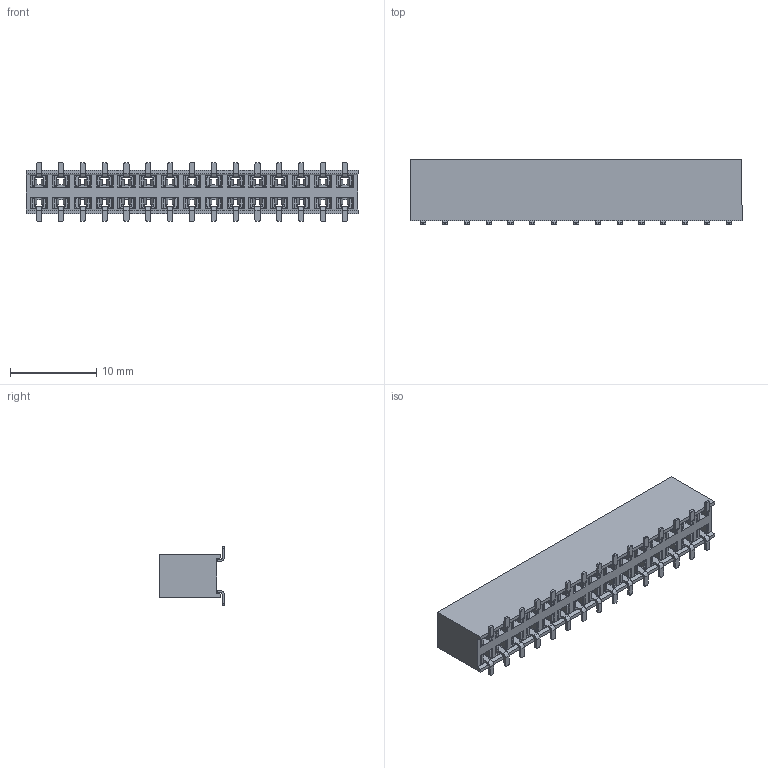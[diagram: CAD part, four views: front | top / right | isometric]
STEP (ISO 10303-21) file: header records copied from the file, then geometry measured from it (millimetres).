
FILE_DESCRIPTION (( 'STEP AP203' ), '1' );
FILE_NAME ('_ _ _C152KFMS-RC.STEP', '2016-08-04T06:38:06', ( 'LUANN HERRING' ), ( 'SULLINS' ), 'SwSTEP 2.0', 'SolidWorks 2015', '' );
FILE_SCHEMA (( 'CONFIG_CONTROL_DESIGN' ));
Length unit declared in the file: inch
Products named in the file (2): _ _ _C152KFMS-RC
Bounding box: 38.6 x 7.5 x 6.85 mm (x, y, z)
Volume: 998.4 mm3; surface area: 3309.2 mm2
Topology: 31 solids, 31 shells, 3070 faces, 8694 edges, 5716 vertices
Faces by surface type: plane 1810, bspline 1260
Entity records: 121015 total; most frequent: CARTESIAN_POINT 52942, ORIENTED_EDGE 17388, EDGE_CURVE 8694, DIRECTION 8358, VERTEX_POINT 5716, LINE 4734, VECTOR 4734, B_SPLINE_CURVE_WITH_KNOTS 3960
